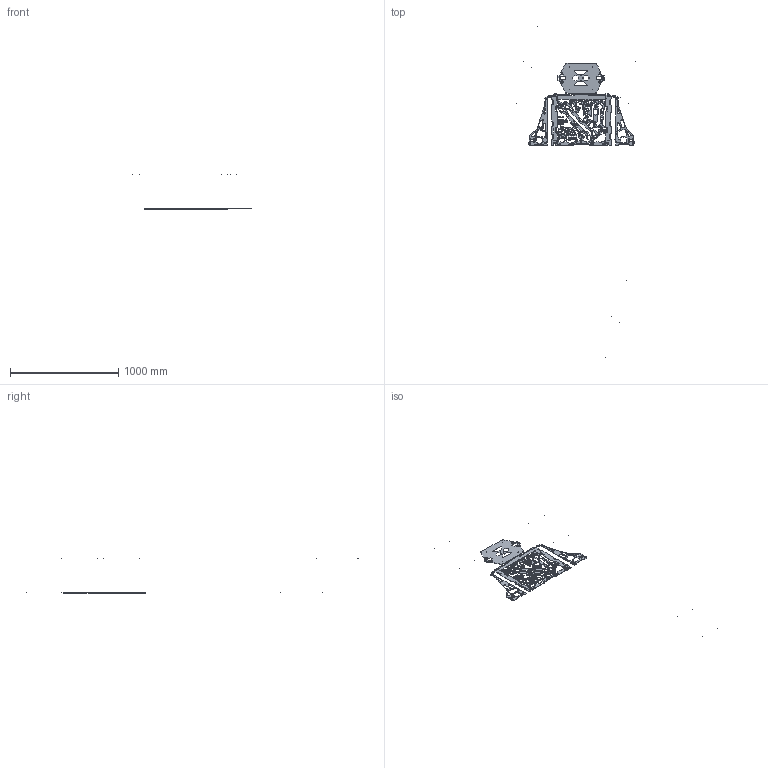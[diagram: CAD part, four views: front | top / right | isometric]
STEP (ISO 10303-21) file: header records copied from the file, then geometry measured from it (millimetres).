
FILE_DESCRIPTION(('STEP AP214'),'1');
FILE_NAME('BeeBot-Lasercut-Parts-V1.STP','2017-03-28T12:35:25',(' '),(' '),'Spatial InterOp 3D',' ',' ');
FILE_SCHEMA(('automotive_design'));
Length unit declared in the file: millimetre
Products named in the file (36): BEEKIT_B1|NAUO1#Estrutura_principal_V1|NAUO299#suporte_guia_fuso_Standard;Fillet5; BEEKIT_B1|NAUO2#Assem_eixo_X|NAUO215#Placa_Eixo_X3;Move Face2; BEEKIT_B1|NAUO1#Estrutura_principal_V1|NAUO291#Pe_a_refor_o_eixo_z;Boss-Extrude5; BEEKIT_B1|NAUO2#Assem_eixo_X|NAUO218#Placa_Eixo_X1;Move Face1; Differenz; BEEKIT_B1|NAUO1#Estrutura_principal_V1|NAUO293#suporte_motor_Z;Boss-Extrude4; BEEKIT_B1|NAUO1#Estrutura_principal_V1|NAUO290#Base_anterior;Move Face2; BEEKIT_B1|NAUO1#Estrutura_principal_V1|NAUO298#suporte_guia_fuso_Standard;Fillet5; BEEKIT_B1|NAUO1#Estrutura_principal_V1|NAUO294#suporte_motor_Z;Boss-Extrude4; BEEKIT_B1|NAUO2#Assem_eixo_X|NAUO217#Placa_Eixo_X1;Move Face1; BEEKIT_B1|NAUO1#Estrutura_principal_V1|NAUO286#Base_lateral_switch;Move Face3; BEEKIT_B1|NAUO1#Estrutura_principal_V1|NAUO292#Pe_a_refor_o_eixo_z;Boss-Extrude5; BEEKIT_B1|NAUO1#Estrutura_principal_V1|NAUO285#Base_lateral;Cut-Extrude10; Rundung; BEEKIT_B1|NAUO1#Estrutura_principal_V1|NAUO288#Refor_o_do_quadro_primario_motor;Move Face4; CPU - -KF0410-01-PLASTIC CASING; gerades Prisma; Summe
Bounding box: 1095.83 x 3072.53 x 314.9 mm (x, y, z)
Volume: 692667.7 mm3; surface area: 633818.7 mm2
Topology: 24 solids, 36 shells, 3221 faces, 9531 edges, 6346 vertices
Faces by surface type: cylinder 1656, plane 1552, revolution 12, bspline 1
Entity records: 136477 total; most frequent: DIRECTION 19316, CARTESIAN_POINT 19243, ORIENTED_EDGE 18990, EDGE_CURVE 9507, AXIS2_PLACEMENT_3D 6556, VERTEX_POINT 6346, LINE 6192, VECTOR 6192
